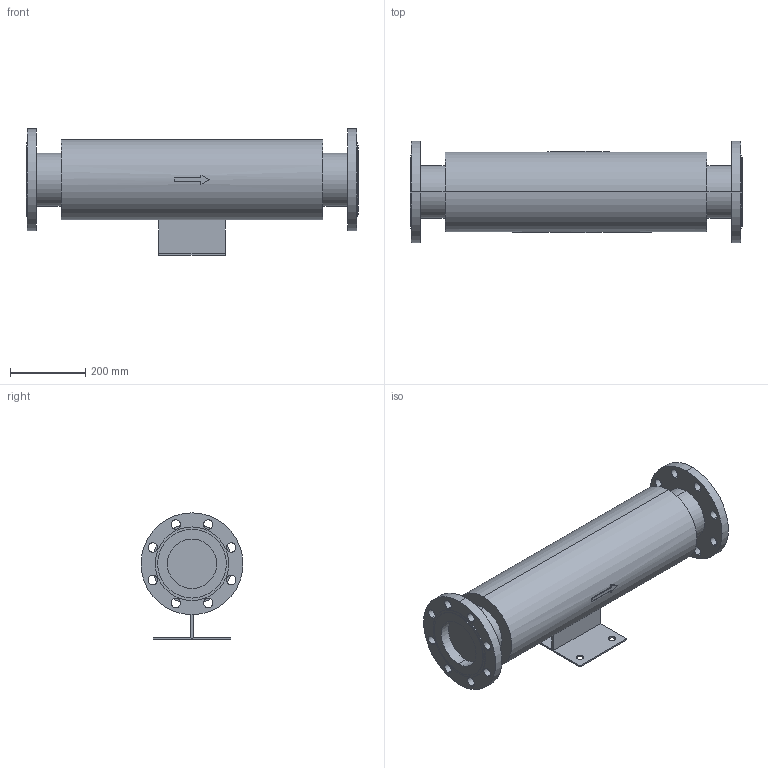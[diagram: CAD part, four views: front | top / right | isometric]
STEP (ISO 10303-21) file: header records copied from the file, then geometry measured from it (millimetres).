
FILE_DESCRIPTION( (''), '2;1');
FILE_NAME ('PC1027.9516.EB-12 125A_0.stp','2025-07-30T09:34:30',(''),(''),'spGate 20.6.3 (****-****-****-****)','','');
FILE_SCHEMA (('AUTOMOTIVE_DESIGN'));
Length unit declared in the file: millimetre
Bounding box: 880 x 270 x 335 mm (x, y, z)
Volume: 28816483.6 mm3; surface area: 945033.7 mm2
Topology: 1 solids, 1 shells, 103 faces, 266 edges, 178 vertices
Faces by surface type: cylinder 64, plane 39
Entity records: 5327 total; most frequent: CARTESIAN_POINT 624, DIRECTION 537, ORIENTED_EDGE 532, COLOUR_RGB 370, PRESENTATION_STYLE_ASSIGNMENT 370, STYLED_ITEM 370, EDGE_CURVE 266, DRAUGHTING_PRE_DEFINED_CURVE_FONT 266
